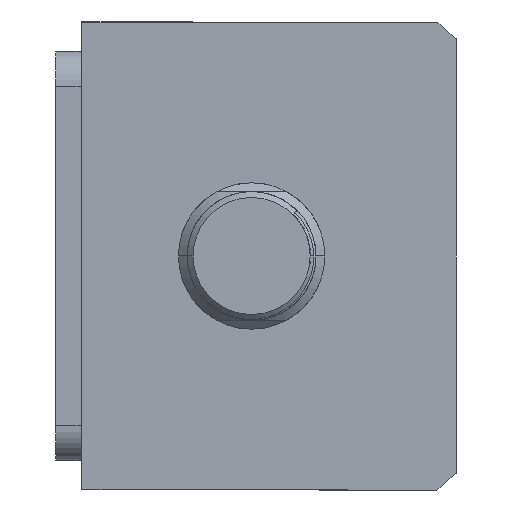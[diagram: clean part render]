
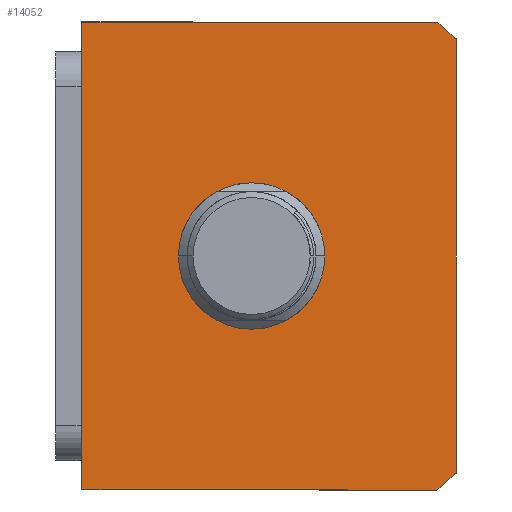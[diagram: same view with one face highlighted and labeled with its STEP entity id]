
A CAD part, front view. The second image highlights one B-rep face of the part: STEP entity #14052.
In plain terms, the highlighted planar face has unit normal (0, -1, 0) as drawn and (0, 0, -1) by its records, which use the part's own axes.
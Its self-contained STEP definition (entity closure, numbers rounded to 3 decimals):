
#499 = CIRCLE ( 'NONE', #2720, 12.5 ) ;
#809 = ORIENTED_EDGE ( 'NONE', *, *, #7510, .T. ) ;
#887 = EDGE_CURVE ( 'NONE', #13080, #13466, #17552, .T. ) ;
#1029 = DIRECTION ( 'NONE',  ( 0., 0., 1. ) ) ;
#1041 = LINE ( 'NONE', #8162, #11442 ) ;
#1143 = VECTOR ( 'NONE', #15369, 1000. ) ;
#1817 = VERTEX_POINT ( 'NONE', #10379 ) ;
#2204 = ORIENTED_EDGE ( 'NONE', *, *, #11366, .T. ) ;
#2413 = DIRECTION ( 'NONE',  ( -1., 0., 0. ) ) ;
#2476 = EDGE_CURVE ( 'NONE', #14951, #9133, #6257, .T. ) ;
#2584 = FACE_BOUND ( 'NONE', #13978, .T. ) ;
#2720 = AXIS2_PLACEMENT_3D ( 'NONE', #5231, #14706, #6593 ) ;
#2748 = ORIENTED_EDGE ( 'NONE', *, *, #887, .F. ) ;
#3179 = DIRECTION ( 'NONE',  ( 0., 0., 1. ) ) ;
#3891 = CARTESIAN_POINT ( 'NONE',  ( 37.094, -75.507, 0. ) ) ;
#4069 = CIRCLE ( 'NONE', #8024, 51. ) ;
#4268 = CARTESIAN_POINT ( 'NONE',  ( -37.094, -75.507, 0. ) ) ;
#4420 = CARTESIAN_POINT ( 'NONE',  ( -40., -11.507, 0. ) ) ;
#4889 = EDGE_LOOP ( 'NONE', ( #16802, #5286, #17517, #9946, #2748, #12064 ) ) ;
#5231 = CARTESIAN_POINT ( 'NONE',  ( 0., -40.507, 0. ) ) ;
#5286 = ORIENTED_EDGE ( 'NONE', *, *, #16695, .F. ) ;
#5305 = VERTEX_POINT ( 'NONE', #4268 ) ;
#5899 = EDGE_CURVE ( 'NONE', #1817, #5305, #4069, .T. ) ;
#5935 = PLANE ( 'NONE',  #7512 ) ;
#6257 = LINE ( 'NONE', #11896, #17057 ) ;
#6593 = DIRECTION ( 'NONE',  ( 1., 0., 0. ) ) ;
#7510 = EDGE_CURVE ( 'NONE', #9744, #16594, #13222, .T. ) ;
#7512 = AXIS2_PLACEMENT_3D ( 'NONE', #15412, #16783, #8669 ) ;
#7851 = DIRECTION ( 'NONE',  ( 1., 0., 0. ) ) ;
#7930 = CARTESIAN_POINT ( 'NONE',  ( -12.5, -40.507, 0. ) ) ;
#8024 = AXIS2_PLACEMENT_3D ( 'NONE', #9173, #1029, #10530 ) ;
#8146 = DIRECTION ( 'NONE',  ( 0., 0., 1. ) ) ;
#8162 = CARTESIAN_POINT ( 'NONE',  ( -40., -11.507, 0. ) ) ;
#8669 = DIRECTION ( 'NONE',  ( 1., 0., 0. ) ) ;
#9133 = VERTEX_POINT ( 'NONE', #4420 ) ;
#9173 = CARTESIAN_POINT ( 'NONE',  ( 0., -40.507, 0. ) ) ;
#9508 = DIRECTION ( 'NONE',  ( 0., -1., 0. ) ) ;
#9556 = AXIS2_PLACEMENT_3D ( 'NONE', #11300, #3179, #12682 ) ;
#9744 = VERTEX_POINT ( 'NONE', #12764 ) ;
#9768 = VECTOR ( 'NONE', #7851, 1000. ) ;
#9946 = ORIENTED_EDGE ( 'NONE', *, *, #13445, .F. ) ;
#9977 = CARTESIAN_POINT ( 'NONE',  ( 40., -11.507, 0. ) ) ;
#10379 = CARTESIAN_POINT ( 'NONE',  ( -40., -72.145, 0. ) ) ;
#10530 = DIRECTION ( 'NONE',  ( 1., 0., 0. ) ) ;
#11269 = AXIS2_PLACEMENT_3D ( 'NONE', #16252, #8146, #17605 ) ;
#11300 = CARTESIAN_POINT ( 'NONE',  ( 0., -40.507, 0. ) ) ;
#11366 = EDGE_CURVE ( 'NONE', #16594, #9744, #499, .T. ) ;
#11442 = VECTOR ( 'NONE', #9508, 1000. ) ;
#11896 = CARTESIAN_POINT ( 'NONE',  ( -40., -11.507, 0. ) ) ;
#12064 = ORIENTED_EDGE ( 'NONE', *, *, #15092, .F. ) ;
#12682 = DIRECTION ( 'NONE',  ( 1., 0., 0. ) ) ;
#12719 = CARTESIAN_POINT ( 'NONE',  ( 40., -72.145, 0. ) ) ;
#12764 = CARTESIAN_POINT ( 'NONE',  ( 12.5, -40.507, 0. ) ) ;
#13080 = VERTEX_POINT ( 'NONE', #3891 ) ;
#13222 = CIRCLE ( 'NONE', #9556, 12.5 ) ;
#13445 = EDGE_CURVE ( 'NONE', #13466, #14951, #15128, .T. ) ;
#13466 = VERTEX_POINT ( 'NONE', #12719 ) ;
#13978 = EDGE_LOOP ( 'NONE', ( #809, #2204 ) ) ;
#14052 = ADVANCED_FACE ( 'NONE', ( #2584, #16588 ), #5935, .F. ) ;
#14706 = DIRECTION ( 'NONE',  ( 0., 0., 1. ) ) ;
#14951 = VERTEX_POINT ( 'NONE', #16803 ) ;
#15092 = EDGE_CURVE ( 'NONE', #5305, #13080, #16567, .T. ) ;
#15128 = LINE ( 'NONE', #9977, #1143 ) ;
#15369 = DIRECTION ( 'NONE',  ( 0., 1., 0. ) ) ;
#15412 = CARTESIAN_POINT ( 'NONE',  ( 0., 0., 0. ) ) ;
#16252 = CARTESIAN_POINT ( 'NONE',  ( 0., -40.507, 0. ) ) ;
#16567 = LINE ( 'NONE', #17317, #9768 ) ;
#16588 = FACE_OUTER_BOUND ( 'NONE', #4889, .T. ) ;
#16594 = VERTEX_POINT ( 'NONE', #7930 ) ;
#16695 = EDGE_CURVE ( 'NONE', #9133, #1817, #1041, .T. ) ;
#16783 = DIRECTION ( 'NONE',  ( 0., 0., 1. ) ) ;
#16802 = ORIENTED_EDGE ( 'NONE', *, *, #5899, .F. ) ;
#16803 = CARTESIAN_POINT ( 'NONE',  ( 40., -11.507, 0. ) ) ;
#17057 = VECTOR ( 'NONE', #2413, 1000. ) ;
#17317 = CARTESIAN_POINT ( 'NONE',  ( -40., -75.507, 0. ) ) ;
#17517 = ORIENTED_EDGE ( 'NONE', *, *, #2476, .F. ) ;
#17552 = CIRCLE ( 'NONE', #11269, 51. ) ;
#17605 = DIRECTION ( 'NONE',  ( 1., 0., 0. ) ) ;
